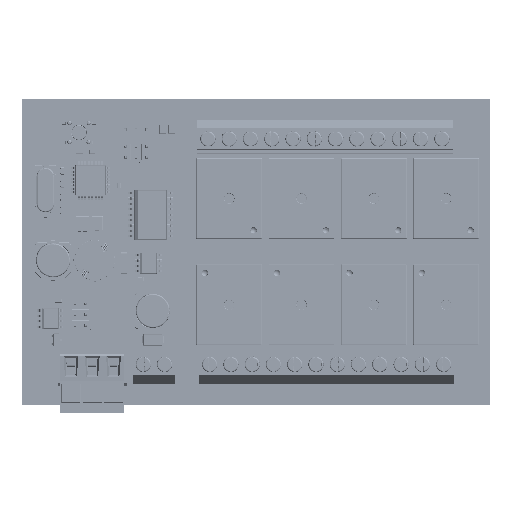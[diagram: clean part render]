
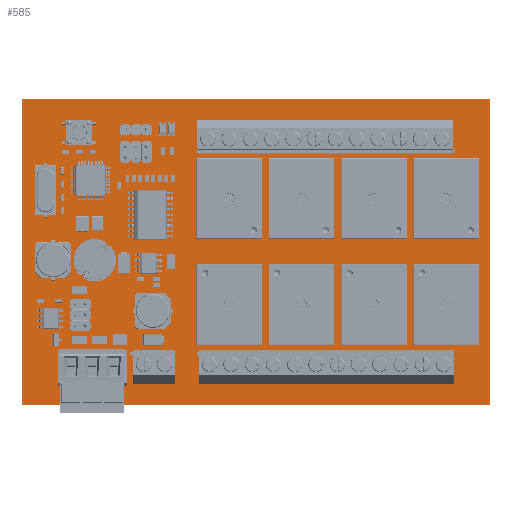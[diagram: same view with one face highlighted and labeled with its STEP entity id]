
A CAD part, top view. The second image highlights one B-rep face of the part: STEP entity #585.
In plain terms, the highlighted planar face has unit normal (0, 0, 1).
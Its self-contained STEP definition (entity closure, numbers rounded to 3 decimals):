
#271 = VERTEX_POINT('',#272);
#272 = CARTESIAN_POINT('',(0.,0.,1.671));
#279 = PLANE('',#280);
#280 = AXIS2_PLACEMENT_3D('',#281,#282,#283);
#281 = CARTESIAN_POINT('',(0.,0.,0.));
#282 = DIRECTION('',(0.,1.,0.));
#283 = DIRECTION('',(1.,0.,0.));
#291 = PLANE('',#292);
#292 = AXIS2_PLACEMENT_3D('',#293,#294,#295);
#293 = CARTESIAN_POINT('',(0.,72.,0.));
#294 = DIRECTION('',(1.,0.,0.));
#295 = DIRECTION('',(0.,-1.,0.));
#303 = EDGE_CURVE('',#271,#304,#306,.T.);
#304 = VERTEX_POINT('',#305);
#305 = CARTESIAN_POINT('',(110.,0.,1.671));
#306 = SURFACE_CURVE('',#307,(#311,#318),.PCURVE_S1.);
#307 = LINE('',#308,#309);
#308 = CARTESIAN_POINT('',(0.,0.,1.671));
#309 = VECTOR('',#310,1.);
#310 = DIRECTION('',(1.,0.,0.));
#311 = PCURVE('',#279,#312);
#312 = DEFINITIONAL_REPRESENTATION('',(#313),#317);
#313 = LINE('',#314,#315);
#314 = CARTESIAN_POINT('',(0.,-1.671));
#315 = VECTOR('',#316,1.);
#316 = DIRECTION('',(1.,0.));
#317 = ( GEOMETRIC_REPRESENTATION_CONTEXT(2) 
PARAMETRIC_REPRESENTATION_CONTEXT() REPRESENTATION_CONTEXT('2D SPACE',''
  ) );
#318 = PCURVE('',#319,#324);
#319 = PLANE('',#320);
#320 = AXIS2_PLACEMENT_3D('',#321,#322,#323);
#321 = CARTESIAN_POINT('',(0.,0.,1.671));
#322 = DIRECTION('',(0.,0.,-1.));
#323 = DIRECTION('',(-1.,0.,0.));
#324 = DEFINITIONAL_REPRESENTATION('',(#325),#329);
#325 = LINE('',#326,#327);
#326 = CARTESIAN_POINT('',(0.,0.));
#327 = VECTOR('',#328,1.);
#328 = DIRECTION('',(-1.,0.));
#329 = ( GEOMETRIC_REPRESENTATION_CONTEXT(2) 
PARAMETRIC_REPRESENTATION_CONTEXT() REPRESENTATION_CONTEXT('2D SPACE',''
  ) );
#347 = PLANE('',#348);
#348 = AXIS2_PLACEMENT_3D('',#349,#350,#351);
#349 = CARTESIAN_POINT('',(110.,0.,0.));
#350 = DIRECTION('',(-1.,0.,0.));
#351 = DIRECTION('',(0.,1.,0.));
#389 = EDGE_CURVE('',#304,#390,#392,.T.);
#390 = VERTEX_POINT('',#391);
#391 = CARTESIAN_POINT('',(110.,72.,1.671));
#392 = SURFACE_CURVE('',#393,(#397,#404),.PCURVE_S1.);
#393 = LINE('',#394,#395);
#394 = CARTESIAN_POINT('',(110.,0.,1.671));
#395 = VECTOR('',#396,1.);
#396 = DIRECTION('',(0.,1.,0.));
#397 = PCURVE('',#347,#398);
#398 = DEFINITIONAL_REPRESENTATION('',(#399),#403);
#399 = LINE('',#400,#401);
#400 = CARTESIAN_POINT('',(0.,-1.671));
#401 = VECTOR('',#402,1.);
#402 = DIRECTION('',(1.,0.));
#403 = ( GEOMETRIC_REPRESENTATION_CONTEXT(2) 
PARAMETRIC_REPRESENTATION_CONTEXT() REPRESENTATION_CONTEXT('2D SPACE',''
  ) );
#404 = PCURVE('',#319,#405);
#405 = DEFINITIONAL_REPRESENTATION('',(#406),#410);
#406 = LINE('',#407,#408);
#407 = CARTESIAN_POINT('',(-110.,0.));
#408 = VECTOR('',#409,1.);
#409 = DIRECTION('',(0.,1.));
#410 = ( GEOMETRIC_REPRESENTATION_CONTEXT(2) 
PARAMETRIC_REPRESENTATION_CONTEXT() REPRESENTATION_CONTEXT('2D SPACE',''
  ) );
#428 = PLANE('',#429);
#429 = AXIS2_PLACEMENT_3D('',#430,#431,#432);
#430 = CARTESIAN_POINT('',(110.,72.,0.));
#431 = DIRECTION('',(0.,-1.,0.));
#432 = DIRECTION('',(-1.,0.,0.));
#465 = EDGE_CURVE('',#390,#466,#468,.T.);
#466 = VERTEX_POINT('',#467);
#467 = CARTESIAN_POINT('',(0.,72.,1.671));
#468 = SURFACE_CURVE('',#469,(#473,#480),.PCURVE_S1.);
#469 = LINE('',#470,#471);
#470 = CARTESIAN_POINT('',(110.,72.,1.671));
#471 = VECTOR('',#472,1.);
#472 = DIRECTION('',(-1.,0.,0.));
#473 = PCURVE('',#428,#474);
#474 = DEFINITIONAL_REPRESENTATION('',(#475),#479);
#475 = LINE('',#476,#477);
#476 = CARTESIAN_POINT('',(0.,-1.671));
#477 = VECTOR('',#478,1.);
#478 = DIRECTION('',(1.,0.));
#479 = ( GEOMETRIC_REPRESENTATION_CONTEXT(2) 
PARAMETRIC_REPRESENTATION_CONTEXT() REPRESENTATION_CONTEXT('2D SPACE',''
  ) );
#480 = PCURVE('',#319,#481);
#481 = DEFINITIONAL_REPRESENTATION('',(#482),#486);
#482 = LINE('',#483,#484);
#483 = CARTESIAN_POINT('',(-110.,72.));
#484 = VECTOR('',#485,1.);
#485 = DIRECTION('',(1.,0.));
#486 = ( GEOMETRIC_REPRESENTATION_CONTEXT(2) 
PARAMETRIC_REPRESENTATION_CONTEXT() REPRESENTATION_CONTEXT('2D SPACE',''
  ) );
#536 = EDGE_CURVE('',#466,#271,#537,.T.);
#537 = SURFACE_CURVE('',#538,(#542,#549),.PCURVE_S1.);
#538 = LINE('',#539,#540);
#539 = CARTESIAN_POINT('',(0.,72.,1.671));
#540 = VECTOR('',#541,1.);
#541 = DIRECTION('',(0.,-1.,0.));
#542 = PCURVE('',#291,#543);
#543 = DEFINITIONAL_REPRESENTATION('',(#544),#548);
#544 = LINE('',#545,#546);
#545 = CARTESIAN_POINT('',(0.,-1.671));
#546 = VECTOR('',#547,1.);
#547 = DIRECTION('',(1.,0.));
#548 = ( GEOMETRIC_REPRESENTATION_CONTEXT(2) 
PARAMETRIC_REPRESENTATION_CONTEXT() REPRESENTATION_CONTEXT('2D SPACE',''
  ) );
#549 = PCURVE('',#319,#550);
#550 = DEFINITIONAL_REPRESENTATION('',(#551),#555);
#551 = LINE('',#552,#553);
#552 = CARTESIAN_POINT('',(0.,72.));
#553 = VECTOR('',#554,1.);
#554 = DIRECTION('',(0.,-1.));
#555 = ( GEOMETRIC_REPRESENTATION_CONTEXT(2) 
PARAMETRIC_REPRESENTATION_CONTEXT() REPRESENTATION_CONTEXT('2D SPACE',''
  ) );
#585 = ADVANCED_FACE('',(#586),#319,.F.);
#586 = FACE_BOUND('',#587,.T.);
#587 = EDGE_LOOP('',(#588,#589,#590,#591));
#588 = ORIENTED_EDGE('',*,*,#303,.T.);
#589 = ORIENTED_EDGE('',*,*,#389,.T.);
#590 = ORIENTED_EDGE('',*,*,#465,.T.);
#591 = ORIENTED_EDGE('',*,*,#536,.T.);
